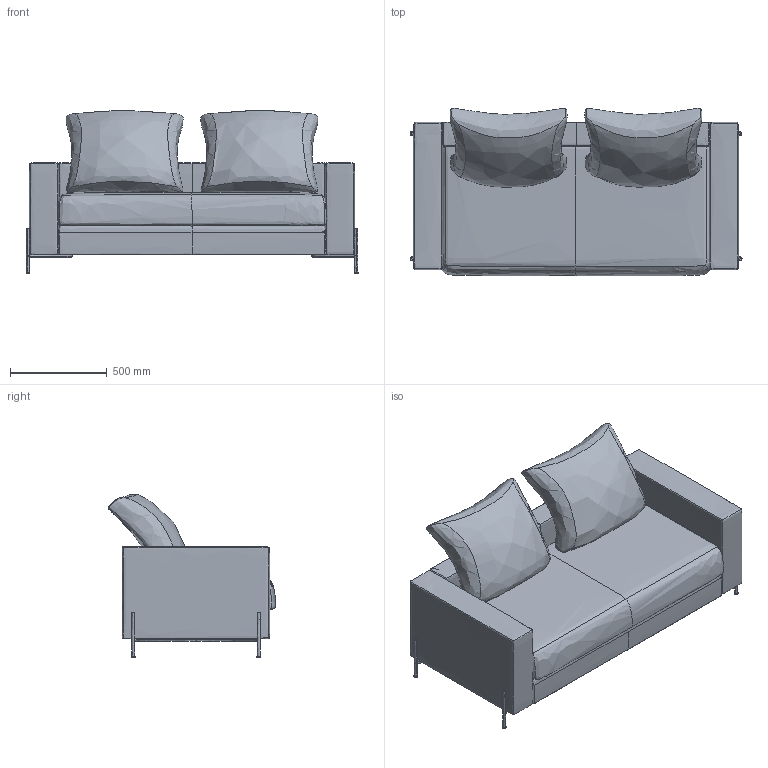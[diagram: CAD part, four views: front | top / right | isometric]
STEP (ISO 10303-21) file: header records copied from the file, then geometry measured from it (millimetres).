
FILE_DESCRIPTION(/* description */ (''),/* implementation_level */ '2;1');
FILE_NAME(/* name */ 'kinoshita_abord_f014-2',/* time_stamp */ '2024-10-01T14:27:10+09:00',/* author */ (''),/* organization */ (''),/* preprocessor_version */ 'ST-DEVELOPER v16.5',/* originating_system */ '',/* authorisation */ '');
FILE_SCHEMA (('AUTOMOTIVE_DESIGN'));
Length unit declared in the file: millimetre
Products named in the file (1): Document
Bounding box: 1719.98 x 865.56 x 845.99 mm (x, y, z)
Volume: 564466083.1 mm3; surface area: 6987618.1 mm2
Topology: 3 solids, 3 shells, 198 faces, 504 edges, 318 vertices
Faces by surface type: bspline 110, plane 88
Entity records: 23598 total; most frequent: CARTESIAN_POINT 20373, ORIENTED_EDGE 1008, EDGE_CURVE 504, B_SPLINE_CURVE_WITH_KNOTS 378, VERTEX_POINT 318, EDGE_LOOP 232, ADVANCED_FACE 198, FACE_OUTER_BOUND 198
